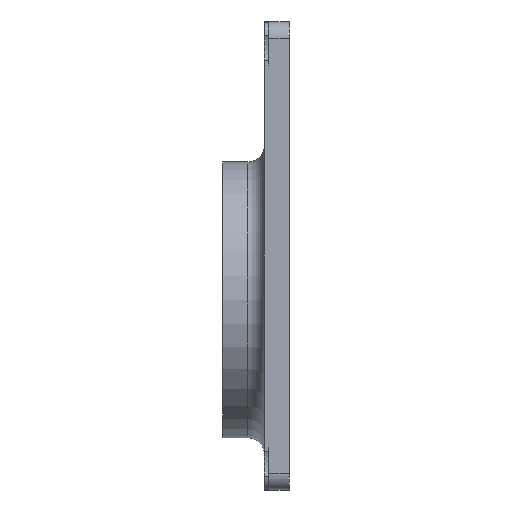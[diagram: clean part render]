
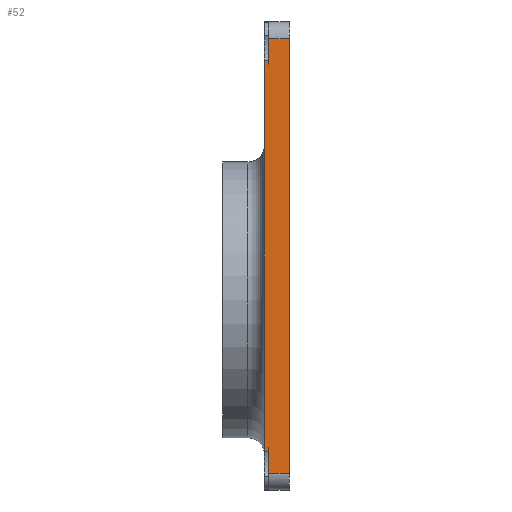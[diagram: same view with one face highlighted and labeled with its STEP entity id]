
A CAD part, left-side view. The second image highlights one B-rep face of the part: STEP entity #52.
In plain terms, the highlighted planar face has unit normal (-1, 0, 0).
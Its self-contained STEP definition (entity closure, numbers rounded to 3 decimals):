
#2 = CARTESIAN_POINT ( 'NONE',  ( -36., 2.5, -23.36 ) ) ;
#21 = LINE ( 'NONE', #2, #1205 ) ;
#32 = CARTESIAN_POINT ( 'NONE',  ( -36., 3., 0. ) ) ;
#35 = VERTEX_POINT ( 'NONE', #1882 ) ;
#45 = EDGE_CURVE ( 'NONE', #582, #291, #1128, .T. ) ;
#46 = EDGE_LOOP ( 'NONE', ( #569, #1765, #2040, #1537, #461, #1925, #95, #1873 ) ) ;
#52 = ADVANCED_FACE ( 'NONE', ( #849 ), #1091, .T. ) ;
#71 = VERTEX_POINT ( 'NONE', #1564 ) ;
#95 = ORIENTED_EDGE ( 'NONE', *, *, #422, .T. ) ;
#108 = CARTESIAN_POINT ( 'NONE',  ( -36., 2.5, 0. ) ) ;
#118 = EDGE_CURVE ( 'NONE', #1887, #179, #21, .T. ) ;
#179 = VERTEX_POINT ( 'NONE', #1327 ) ;
#237 = CARTESIAN_POINT ( 'NONE',  ( -36., 3., -26. ) ) ;
#267 = EDGE_CURVE ( 'NONE', #876, #1141, #1543, .T. ) ;
#291 = VERTEX_POINT ( 'NONE', #1262 ) ;
#309 = DIRECTION ( 'NONE',  ( 0., 0., -1. ) ) ;
#323 = VECTOR ( 'NONE', #1969, 1000. ) ;
#332 = EDGE_CURVE ( 'NONE', #71, #179, #1461, .T. ) ;
#422 = EDGE_CURVE ( 'NONE', #582, #1141, #801, .T. ) ;
#452 = CARTESIAN_POINT ( 'NONE',  ( -36., 2.5, 0. ) ) ;
#461 = ORIENTED_EDGE ( 'NONE', *, *, #484, .T. ) ;
#484 = EDGE_CURVE ( 'NONE', #35, #291, #717, .T. ) ;
#569 = ORIENTED_EDGE ( 'NONE', *, *, #1754, .T. ) ;
#582 = VERTEX_POINT ( 'NONE', #1320 ) ;
#648 = DIRECTION ( 'NONE',  ( 0., 0., -1. ) ) ;
#652 = DIRECTION ( 'NONE',  ( 0., 0., 1. ) ) ;
#717 = LINE ( 'NONE', #237, #1334 ) ;
#737 = CARTESIAN_POINT ( 'NONE',  ( -36., 2.5, 23.36 ) ) ;
#801 = LINE ( 'NONE', #1307, #842 ) ;
#803 = CARTESIAN_POINT ( 'NONE',  ( -36., 0., 0. ) ) ;
#842 = VECTOR ( 'NONE', #1453, 1000. ) ;
#848 = LINE ( 'NONE', #1043, #1817 ) ;
#849 = FACE_OUTER_BOUND ( 'NONE', #46, .T. ) ;
#876 = VERTEX_POINT ( 'NONE', #737 ) ;
#916 = VECTOR ( 'NONE', #1086, 1000. ) ;
#1043 = CARTESIAN_POINT ( 'NONE',  ( -36., 2.5, 23.36 ) ) ;
#1086 = DIRECTION ( 'NONE',  ( 0., 0., 1. ) ) ;
#1091 = PLANE ( 'NONE',  #1798 ) ;
#1128 = LINE ( 'NONE', #803, #1203 ) ;
#1134 = CARTESIAN_POINT ( 'NONE',  ( -36., 3., 0. ) ) ;
#1141 = VERTEX_POINT ( 'NONE', #1448 ) ;
#1203 = VECTOR ( 'NONE', #309, 1000. ) ;
#1205 = VECTOR ( 'NONE', #1631, 1000. ) ;
#1256 = DIRECTION ( 'NONE',  ( -1., 0., 0. ) ) ;
#1262 = CARTESIAN_POINT ( 'NONE',  ( -36., 0., -26. ) ) ;
#1307 = CARTESIAN_POINT ( 'NONE',  ( -36., 3., 26. ) ) ;
#1320 = CARTESIAN_POINT ( 'NONE',  ( -36., 0., 26. ) ) ;
#1327 = CARTESIAN_POINT ( 'NONE',  ( -36., 3., -23.36 ) ) ;
#1334 = VECTOR ( 'NONE', #1820, 1000. ) ;
#1392 = EDGE_CURVE ( 'NONE', #35, #1887, #1644, .T. ) ;
#1448 = CARTESIAN_POINT ( 'NONE',  ( -36., 2.5, 26. ) ) ;
#1453 = DIRECTION ( 'NONE',  ( 0., 1., 0. ) ) ;
#1461 = LINE ( 'NONE', #1134, #1936 ) ;
#1537 = ORIENTED_EDGE ( 'NONE', *, *, #1392, .F. ) ;
#1543 = LINE ( 'NONE', #452, #916 ) ;
#1564 = CARTESIAN_POINT ( 'NONE',  ( -36., 3., 23.36 ) ) ;
#1631 = DIRECTION ( 'NONE',  ( 0., 1., 0. ) ) ;
#1644 = LINE ( 'NONE', #108, #323 ) ;
#1653 = DIRECTION ( 'NONE',  ( 0., 1., 0. ) ) ;
#1754 = EDGE_CURVE ( 'NONE', #876, #71, #848, .T. ) ;
#1765 = ORIENTED_EDGE ( 'NONE', *, *, #332, .T. ) ;
#1798 = AXIS2_PLACEMENT_3D ( 'NONE', #32, #1256, #652 ) ;
#1817 = VECTOR ( 'NONE', #1653, 1000. ) ;
#1820 = DIRECTION ( 'NONE',  ( 0., -1., 0. ) ) ;
#1873 = ORIENTED_EDGE ( 'NONE', *, *, #267, .F. ) ;
#1882 = CARTESIAN_POINT ( 'NONE',  ( -36., 2.5, -26. ) ) ;
#1887 = VERTEX_POINT ( 'NONE', #2010 ) ;
#1925 = ORIENTED_EDGE ( 'NONE', *, *, #45, .F. ) ;
#1936 = VECTOR ( 'NONE', #648, 1000. ) ;
#1969 = DIRECTION ( 'NONE',  ( 0., 0., 1. ) ) ;
#2010 = CARTESIAN_POINT ( 'NONE',  ( -36., 2.5, -23.36 ) ) ;
#2040 = ORIENTED_EDGE ( 'NONE', *, *, #118, .F. ) ;
